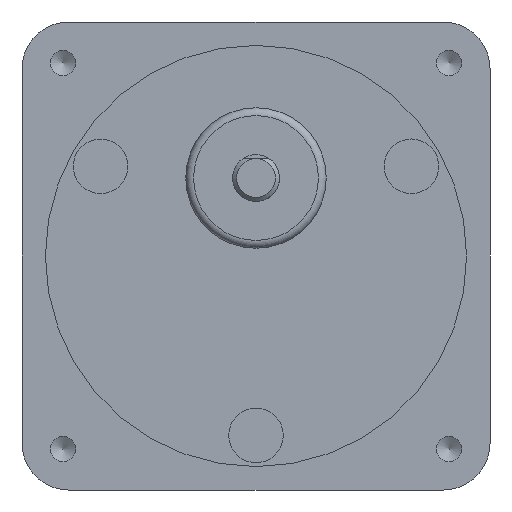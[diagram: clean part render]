
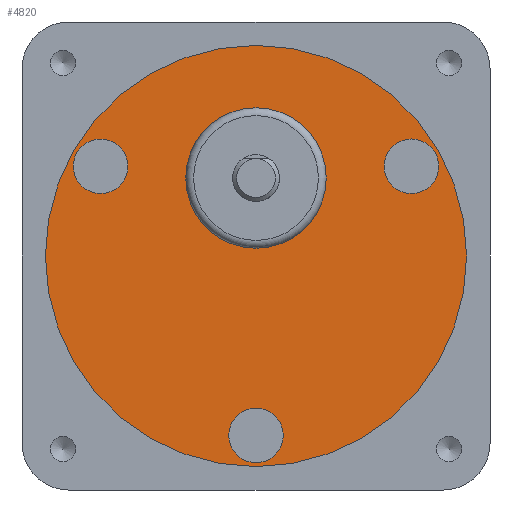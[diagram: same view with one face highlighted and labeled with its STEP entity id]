
A CAD part, front view. The second image highlights one B-rep face of the part: STEP entity #4820.
In plain terms, the highlighted planar face has unit normal (0, -1, 0).
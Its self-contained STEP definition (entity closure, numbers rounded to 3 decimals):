
#3692=CARTESIAN_POINT('',(18.169,-3.5,14.531));
#3693=VERTEX_POINT('',#3692);
#3694=CARTESIAN_POINT('',(19.919,-3.5,11.5));
#3695=DIRECTION('',(0.0,1.0,0.0));
#3696=DIRECTION('',(0.5,0.0,-0.866));
#3697=AXIS2_PLACEMENT_3D('',#3694,#3695,#3696);
#3698=CIRCLE('',#3697,3.5);
#3699=EDGE_CURVE('',#3693,#3693,#3698,.T.);
#3729=CARTESIAN_POINT('',(-21.669,-3.5,8.469));
#3730=VERTEX_POINT('',#3729);
#3731=CARTESIAN_POINT('',(-19.919,-3.5,11.5));
#3732=DIRECTION('',(0.0,1.,0.0));
#3733=DIRECTION('',(0.5,0.0,0.866));
#3734=AXIS2_PLACEMENT_3D('',#3731,#3732,#3733);
#3735=CIRCLE('',#3734,3.5);
#3736=EDGE_CURVE('',#3730,#3730,#3735,.T.);
#3766=CARTESIAN_POINT('',(3.5,-3.5,-23.));
#3767=VERTEX_POINT('',#3766);
#3768=CARTESIAN_POINT('',(0.,-3.5,-23.));
#3769=DIRECTION('',(0.0,1.0,0.0));
#3770=DIRECTION('',(-1.0,0.0,0.0));
#3771=AXIS2_PLACEMENT_3D('',#3768,#3769,#3770);
#3772=CIRCLE('',#3771,3.5);
#3773=EDGE_CURVE('',#3767,#3767,#3772,.T.);
#4769=CARTESIAN_POINT('',(27.,-3.5,0.));
#4770=VERTEX_POINT('',#4769);
#4771=CARTESIAN_POINT('',(0.,-3.5,0.));
#4772=DIRECTION('',(0.0,-1.0,0.0));
#4773=DIRECTION('',(-1.0,0.0,0.0));
#4774=AXIS2_PLACEMENT_3D('',#4771,#4772,#4773);
#4775=CIRCLE('',#4774,27.0);
#4776=EDGE_CURVE('',#4770,#4770,#4775,.T.);
#4792=CARTESIAN_POINT('',(0.,-3.5,0.));
#4793=DIRECTION('',(0.0,1.0,0.0));
#4794=DIRECTION('',(0.0,0.0,1.0));
#4795=AXIS2_PLACEMENT_3D('',#4792,#4793,#4794);
#4796=PLANE('',#4795);
#4797=ORIENTED_EDGE('',*,*,#4776,.T.);
#4798=EDGE_LOOP('',(#4797));
#4799=FACE_OUTER_BOUND('',#4798,.T.);
#4800=ORIENTED_EDGE('',*,*,#3699,.T.);
#4801=EDGE_LOOP('',(#4800));
#4802=FACE_BOUND('',#4801,.T.);
#4803=ORIENTED_EDGE('',*,*,#3736,.T.);
#4804=EDGE_LOOP('',(#4803));
#4805=FACE_BOUND('',#4804,.T.);
#4806=ORIENTED_EDGE('',*,*,#3773,.T.);
#4807=EDGE_LOOP('',(#4806));
#4808=FACE_BOUND('',#4807,.T.);
#4809=CARTESIAN_POINT('',(9.,-3.5,10.));
#4810=VERTEX_POINT('',#4809);
#4811=CARTESIAN_POINT('',(0.,-3.5,10.));
#4812=DIRECTION('',(0.0,-1.0,0.0));
#4813=DIRECTION('',(-1.0,0.0,0.0));
#4814=AXIS2_PLACEMENT_3D('',#4811,#4812,#4813);
#4815=CIRCLE('',#4814,9.0);
#4816=EDGE_CURVE('',#4810,#4810,#4815,.T.);
#4817=ORIENTED_EDGE('',*,*,#4816,.F.);
#4818=EDGE_LOOP('',(#4817));
#4819=FACE_BOUND('',#4818,.T.);
#4820=ADVANCED_FACE('',(#4799,#4802,#4805,#4808,#4819),#4796,.F.);
